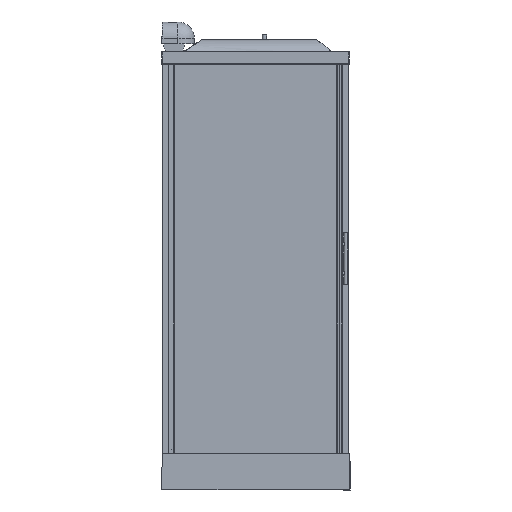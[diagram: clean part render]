
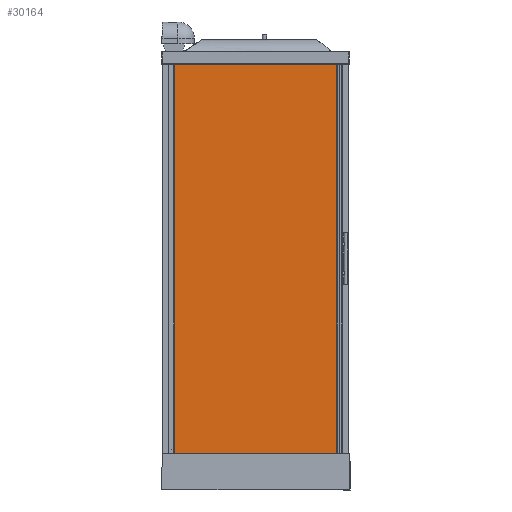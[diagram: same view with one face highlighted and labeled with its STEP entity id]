
A CAD part, left-side view. The second image highlights one B-rep face of the part: STEP entity #30164.
In plain terms, the highlighted planar face has unit normal (-1, 0, 0).
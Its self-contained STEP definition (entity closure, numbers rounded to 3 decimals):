
#30044=CARTESIAN_POINT('',(-865.853,-55.82,164.56));
#30045=VERTEX_POINT('',#30044);
#30052=CARTESIAN_POINT('',(-865.853,-55.82,2061.56));
#30053=VERTEX_POINT('',#30052);
#30054=CARTESIAN_POINT('',(-865.853,-55.82,2061.56));
#30055=DIRECTION('',(0.0,0.0,-1.0));
#30056=VECTOR('',#30055,1897.0);
#30057=LINE('',#30054,#30056);
#30058=EDGE_CURVE('',#30053,#30045,#30057,.T.);
#30083=CARTESIAN_POINT('',(-865.853,-848.82,164.56));
#30084=VERTEX_POINT('',#30083);
#30091=CARTESIAN_POINT('',(-865.853,-55.82,164.56));
#30092=DIRECTION('',(0.0,-1.0,0.0));
#30093=VECTOR('',#30092,793.);
#30094=LINE('',#30091,#30093);
#30095=EDGE_CURVE('',#30045,#30084,#30094,.T.);
#30130=CARTESIAN_POINT('',(-865.853,-848.82,2061.56));
#30131=VERTEX_POINT('',#30130);
#30132=CARTESIAN_POINT('',(-865.853,-55.82,2061.56));
#30133=DIRECTION('',(0.0,-1.0,0.0));
#30134=VECTOR('',#30133,793.);
#30135=LINE('',#30132,#30134);
#30136=EDGE_CURVE('',#30053,#30131,#30135,.T.);
#30148=CARTESIAN_POINT('',(-865.853,-26.17,69.71));
#30149=DIRECTION('',(-1.0,0.0,0.0));
#30150=DIRECTION('',(0.0,-1.0,0.0));
#30151=AXIS2_PLACEMENT_3D('',#30148,#30149,#30150);
#30152=PLANE('',#30151);
#30153=ORIENTED_EDGE('',*,*,#30058,.T.);
#30154=ORIENTED_EDGE('',*,*,#30095,.T.);
#30155=CARTESIAN_POINT('',(-865.853,-848.82,164.56));
#30156=DIRECTION('',(0.0,0.0,1.0));
#30157=VECTOR('',#30156,1897.0);
#30158=LINE('',#30155,#30157);
#30159=EDGE_CURVE('',#30084,#30131,#30158,.T.);
#30160=ORIENTED_EDGE('',*,*,#30159,.T.);
#30161=ORIENTED_EDGE('',*,*,#30136,.F.);
#30162=EDGE_LOOP('',(#30153,#30154,#30160,#30161));
#30163=FACE_OUTER_BOUND('',#30162,.T.);
#30164=ADVANCED_FACE('',(#30163),#30152,.T.);
